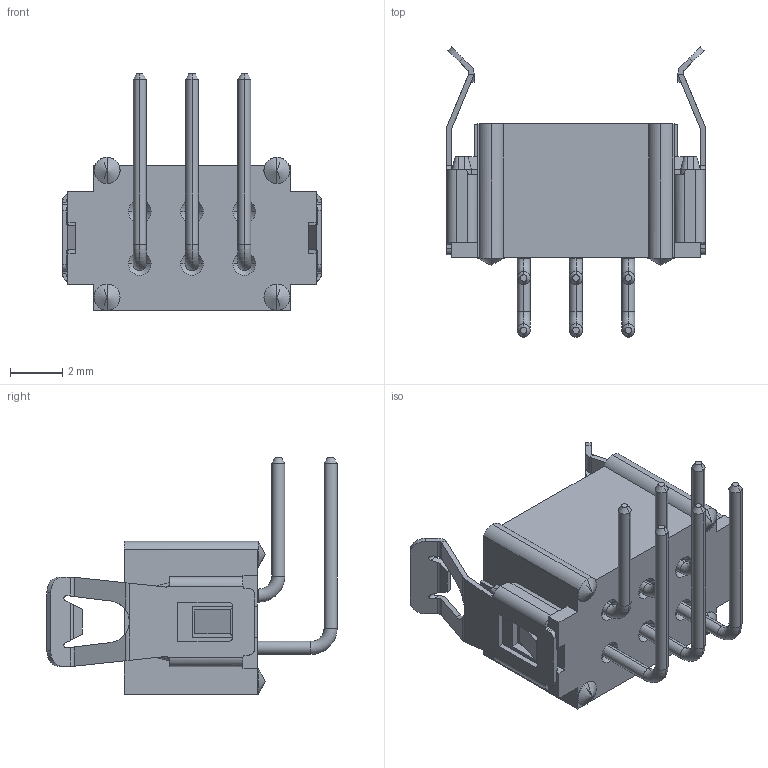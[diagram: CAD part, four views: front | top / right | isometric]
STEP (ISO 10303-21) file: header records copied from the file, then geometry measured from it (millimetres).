
FILE_DESCRIPTION((''),'2;1');
FILE_NAME('M80-8660622_ASM','2011-09-07T',('wbourne'),(''),'PRO/ENGINEER BY PARAMETRIC TECHNOLOGY CORPORATION, 2010280','PRO/ENGINEER BY PARAMETRIC TECHNOLOGY CORPORATION, 2010280','');
FILE_SCHEMA(('CONFIG_CONTROL_DESIGN','SHAPE_APPEARANCE_LAYERS_GROUPS'));
Length unit declared in the file: millimetre
Products named in the file (6): M80-1020698_SEPARATE_ROWS; M80-868-PIN1; M80-868-PIN2; M80-8680622_ASM; M80-001XXXX; M80-8660622_ASM
Assembly tree (10 placements, depth 3):
  M80-8660622_ASM
    M80-8680622_ASM
      M80-1020698_SEPARATE_ROWS
      M80-868-PIN1  x3
      M80-868-PIN2  x3
    M80-001XXXX  x2
Bounding box: 9.9 x 11.1 x 9.05 mm (x, y, z)
Volume: 164.1 mm3; surface area: 599.3 mm2
Topology: 9 solids, 9 shells, 477 faces, 1208 edges, 750 vertices
Faces by surface type: plane 253, cylinder 128, cone 60, bspline 24, torus 12
Entity records: 11405 total; most frequent: CARTESIAN_POINT 2018, ORIENTED_EDGE 1438, DIRECTION 1437, PRESENTATION_STYLE_ASSIGNMENT 737, STYLED_ITEM 723, CURVE_STYLE 719, EDGE_CURVE 719, AXIS2_PLACEMENT_3D 481
